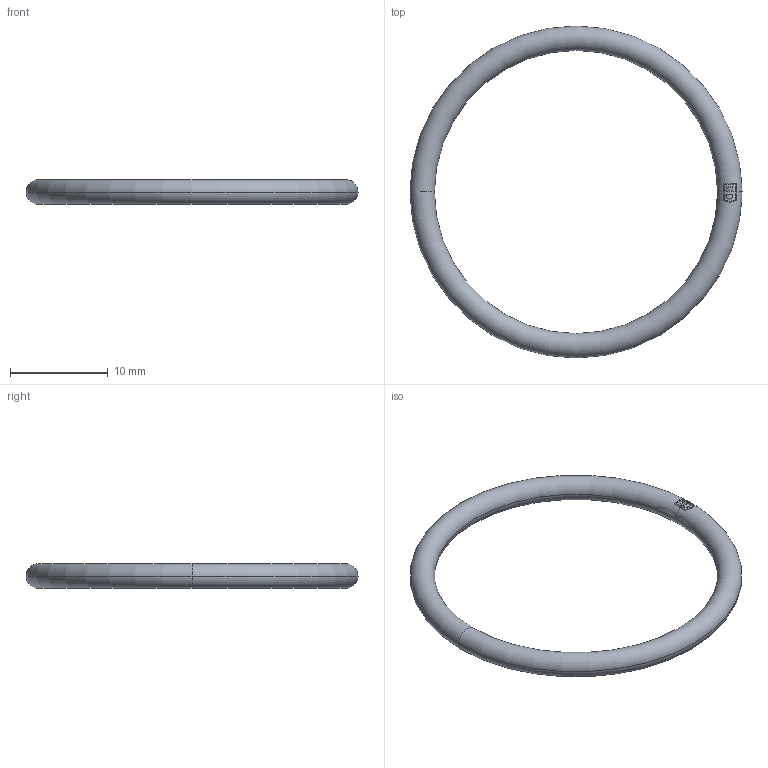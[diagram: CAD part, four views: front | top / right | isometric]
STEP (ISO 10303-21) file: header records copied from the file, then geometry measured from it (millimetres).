
FILE_DESCRIPTION (( 'STEP AP203' ), '1' );
FILE_NAME ('50.332 G-2.5.STEP', '2007-02-26T10:39:56', ( ' ' ), ( '' ), 'SwSTEP 2.0', 'SolidWorks 2005278', '' );
FILE_SCHEMA (( 'CONFIG_CONTROL_DESIGN' ));
Length unit declared in the file: millimetre
Products named in the file (1): 50.332 G-2.5
Bounding box: 34 x 34 x 2.5 mm (x, y, z)
Volume: 485.7 mm3; surface area: 777.6 mm2
Topology: 1 solids, 1 shells, 41 faces, 113 edges, 74 vertices
Faces by surface type: plane 34, torus 7
Entity records: 1576 total; most frequent: CARTESIAN_POINT 574, ORIENTED_EDGE 226, DIRECTION 140, EDGE_CURVE 113, VERTEX_POINT 74, B_SPLINE_CURVE_WITH_KNOTS 68, AXIS2_PLACEMENT_3D 53, EDGE_LOOP 43
